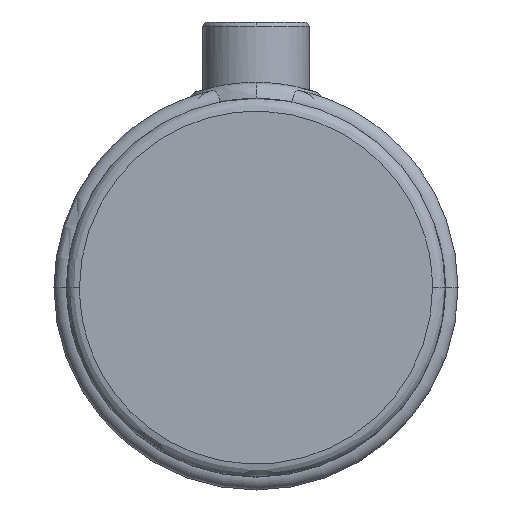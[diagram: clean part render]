
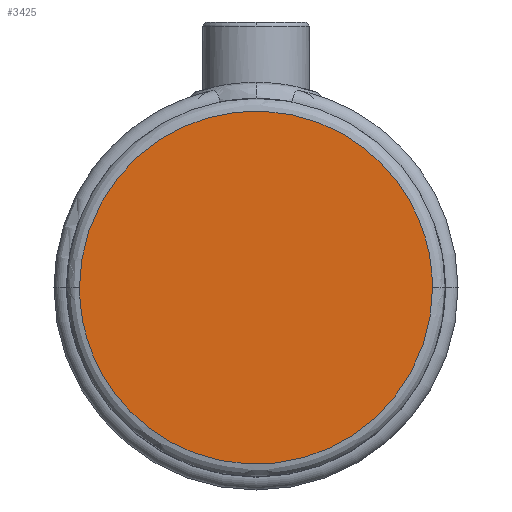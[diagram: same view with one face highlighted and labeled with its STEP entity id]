
A CAD part, top view. The second image highlights one B-rep face of the part: STEP entity #3425.
In plain terms, the highlighted planar face has unit normal (0, 0, 1).
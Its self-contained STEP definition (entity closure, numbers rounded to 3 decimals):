
#49 =( BOUNDED_CURVE ( )  B_SPLINE_CURVE ( 3, ( #6211, #3612, #3861, #9512 ),
 .UNSPECIFIED., .F., .F. ) 
 B_SPLINE_CURVE_WITH_KNOTS ( ( 4, 4 ),
 ( 0.25, 0.75 ),
 .UNSPECIFIED. ) 
 CURVE ( )  GEOMETRIC_REPRESENTATION_ITEM ( )  RATIONAL_B_SPLINE_CURVE ( ( 1., 0.333, 0.333, 1. ) ) 
 REPRESENTATION_ITEM ( '' )  );
#1296 = FACE_OUTER_BOUND ( 'NONE', #8064, .T. ) ;
#1813 = VERTEX_POINT ( 'NONE', #3214 ) ;
#2606 = CARTESIAN_POINT ( 'NONE',  ( 41.45, 0., 50. ) ) ;
#2682 = ORIENTED_EDGE ( 'NONE', *, *, #6308, .F. ) ;
#3214 = CARTESIAN_POINT ( 'NONE',  ( -41.45, 0., 50. ) ) ;
#3222 = ORIENTED_EDGE ( 'NONE', *, *, #6105, .F. ) ;
#3425 = ADVANCED_FACE ( 'NONE', ( #1296 ), #4567, .T. ) ;
#3612 = CARTESIAN_POINT ( 'NONE',  ( 41.45, -82.9, 50. ) ) ;
#3861 = CARTESIAN_POINT ( 'NONE',  ( -41.45, -82.9, 50. ) ) ;
#4136 = AXIS2_PLACEMENT_3D ( 'NONE', #9236, #10197, #5379 ) ;
#4567 = PLANE ( 'NONE',  #4136 ) ;
#5205 = CARTESIAN_POINT ( 'NONE',  ( 41.45, 0., 50. ) ) ;
#5379 = DIRECTION ( 'NONE',  ( 0., -1., 0. ) ) ;
#5395 = CARTESIAN_POINT ( 'NONE',  ( -41.45, 0., 50. ) ) ;
#5671 = VERTEX_POINT ( 'NONE', #2606 ) ;
#6105 = EDGE_CURVE ( 'NONE', #1813, #5671, #7591, .T. ) ;
#6211 = CARTESIAN_POINT ( 'NONE',  ( 41.45, 0., 50. ) ) ;
#6308 = EDGE_CURVE ( 'NONE', #5671, #1813, #49, .T. ) ;
#7591 =( BOUNDED_CURVE ( )  B_SPLINE_CURVE ( 3, ( #5395, #10210, #10022, #5205 ),
 .UNSPECIFIED., .F., .F. ) 
 B_SPLINE_CURVE_WITH_KNOTS ( ( 4, 4 ),
 ( 0.75, 1.25 ),
 .UNSPECIFIED. ) 
 CURVE ( )  GEOMETRIC_REPRESENTATION_ITEM ( )  RATIONAL_B_SPLINE_CURVE ( ( 1., 0.333, 0.333, 1. ) ) 
 REPRESENTATION_ITEM ( '' )  );
#8064 = EDGE_LOOP ( 'NONE', ( #2682, #3222 ) ) ;
#9236 = CARTESIAN_POINT ( 'NONE',  ( 0., 22.225, 50. ) ) ;
#9512 = CARTESIAN_POINT ( 'NONE',  ( -41.45, 0., 50. ) ) ;
#10022 = CARTESIAN_POINT ( 'NONE',  ( 41.45, 82.9, 50. ) ) ;
#10197 = DIRECTION ( 'NONE',  ( 0., 0., 1. ) ) ;
#10210 = CARTESIAN_POINT ( 'NONE',  ( -41.45, 82.9, 50. ) ) ;
